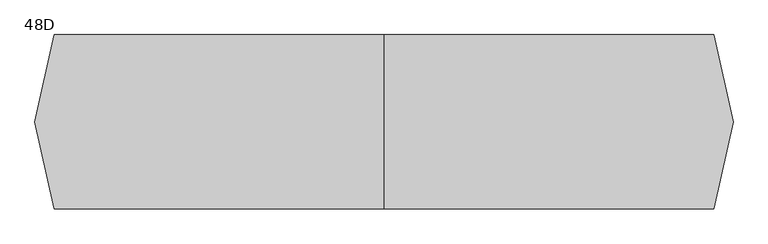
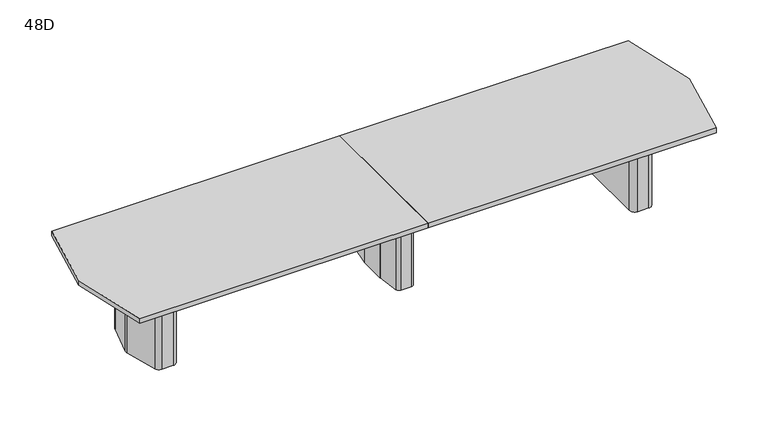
"""IFC4 building model written with IfcOpenShell, lengths in millimetres: furniture geometry, Coalesse_AM_Table_Conference_ETable2_Faceted_16ft_ThreeBase : 48D."""

from ifc_helpers import new_model, si_unit, frame, origin, place, context, project, spatial, polyline, circle_curve, outline, extrude, source, transform, mapped, element, save
from ifc_brep_helpers import plane_surface, cylinder_surface, revolved_surface, advanced_brep


def furniture_48d_52e363a8(model_context):
    return source(origin(), model_context, "Body", "SolidModel", [
        advanced_brep(
        [(35.71875, 206.375, 3.175), (10.31875, 231.775, 3.175), (-10.31875, 231.775, 3.175), (-35.71875, 206.375, 3.175), (-35.71875, -206.375, 3.175), (-10.31875, -231.775, 3.175), (10.31875, -231.775, 3.175), (35.71875, -206.375, 3.175), (-61.11875, 206.375, 0.0), (-10.31875, 257.175, 0.0), (10.31875, 257.175, 0.0), (61.11875, 206.375, 0.0), (61.11875, -206.375, 0.0), (10.31875, -257.175, 0.0), (-10.31875, -257.175, 0.0), (-61.11875, -206.375, 0.0), (-61.11875, -206.375, 3.175), (-61.11875, 206.375, 3.175), (-10.31875, -257.175, 3.175), (10.31875, -257.175, 3.175), (61.11875, -206.375, 3.175), (61.11875, 206.375, 3.175), (10.31875, 257.175, 3.175), (-10.31875, 257.175, 3.175), (-92.6215974, 106.2976848, 698.5), (-92.86875, 102.7629613, 698.5), (-92.86875, -102.7629613, 698.5), (-92.6215974, -106.2976848, 698.5), (-67.7988375, -282.9347235, 698.5), (-42.6459902, -304.8, 698.5), (42.6459902, -304.8, 698.5), (67.7988375, -282.9347235, 698.5), (92.6215974, -106.2976848, 698.5), (92.86875, -102.7629613, 698.5), (92.86875, 102.7629613, 698.5), (92.6215974, 106.2976848, 698.5), (67.7988375, 282.9347235, 698.5), (42.6459902, 304.8, 698.5), (-42.6459902, 304.8, 698.5), (-67.7988375, 282.9347235, 698.5), (10.31875, 231.775, 698.5), (35.71875, 206.375, 698.5), (35.71875, -206.375, 698.5), (10.31875, -231.775, 698.5), (-10.31875, -231.775, 698.5), (-35.71875, -206.375, 698.5), (-35.71875, 206.375, 698.5), (-10.31875, 231.775, 698.5), (-92.6215974, 106.2976848, 3.175), (-67.7988375, 282.9347235, 3.175), (-42.6459902, 304.8, 3.175), (42.6459902, 304.8, 3.175), (67.7988375, 282.9347235, 3.175), (92.6215974, 106.2976848, 3.175), (92.86875, 102.7629613, 3.175), (92.86875, -102.7629613, 3.175), (92.6215974, -106.2976848, 3.175), (67.7988375, -282.9347235, 3.175), (42.6459902, -304.8, 3.175), (-42.6459902, -304.8, 3.175), (-67.7988375, -282.9347235, 3.175), (-92.6215974, -106.2976848, 3.175), (-92.86875, -102.7629613, 3.175), (-92.86875, 102.7629613, 3.175)],
        [
            (0, 1, circle_curve(frame((10.31875, 206.375, 3.175), z_axis=(0.0, 0.0, 1.0), x_axis=(1.0, 0.0, 0.0)), 25.4)),
            (1, 2),
            (2, 3, circle_curve(frame((-10.31875, 206.375, 3.175), z_axis=(0.0, 0.0, 1.0), x_axis=(1.0, 0.0, 0.0)), 25.4)),
            (3, 4),
            (4, 5, circle_curve(frame((-10.31875, -206.375, 3.175), z_axis=(0.0, 0.0, 1.0), x_axis=(1.0, 0.0, 0.0)), 25.4)),
            (5, 6),
            (6, 7, circle_curve(frame((10.31875, -206.375, 3.175), z_axis=(0.0, 0.0, 1.0), x_axis=(1.0, 0.0, 0.0)), 25.4)),
            (7, 0),
            (8, 9, circle_curve(frame((-10.31875, 206.375, 0.0), z_axis=(0.0, 0.0, -1.0), x_axis=(1.0, 0.0, 0.0)), 50.8)),
            (9, 10),
            (10, 11, circle_curve(frame((10.31875, 206.375, 0.0), z_axis=(0.0, 0.0, -1.0), x_axis=(1.0, 0.0, 0.0)), 50.8)),
            (11, 12),
            (12, 13, circle_curve(frame((10.31875, -206.375, 0.0), z_axis=(0.0, 0.0, -1.0), x_axis=(1.0, 0.0, 0.0)), 50.8)),
            (13, 14),
            (14, 15, circle_curve(frame((-10.31875, -206.375, 0.0), z_axis=(0.0, 0.0, -1.0), x_axis=(1.0, 0.0, 0.0)), 50.8)),
            (15, 8),
            (15, 16),
            (16, 17),
            (17, 8),
            (14, 18),
            (18, 16, circle_curve(frame((-10.31875, -206.375, 3.175), z_axis=(0.0, 0.0, -1.0), x_axis=(1.0, 0.0, 0.0)), 50.8)),
            (13, 19),
            (19, 18),
            (12, 20),
            (20, 19, circle_curve(frame((10.31875, -206.375, 3.175), z_axis=(0.0, 0.0, -1.0), x_axis=(1.0, 0.0, 0.0)), 50.8)),
            (11, 21),
            (21, 20),
            (10, 22),
            (22, 21, circle_curve(frame((10.31875, 206.375, 3.175), z_axis=(0.0, 0.0, -1.0), x_axis=(1.0, 0.0, 0.0)), 50.8)),
            (9, 23),
            (23, 22),
            (17, 23, circle_curve(frame((-10.31875, 206.375, 3.175), z_axis=(0.0, 0.0, -1.0), x_axis=(1.0, 0.0, 0.0)), 50.8)),
            (24, 25, circle_curve(frame((-67.46875, 102.7629613, 698.5), z_axis=(0.0, 0.0, 1.0), x_axis=(1.0, 0.0, 0.0)), 25.4)),
            (25, 26),
            (26, 27, circle_curve(frame((-67.46875, -102.7629613, 698.5), z_axis=(0.0, 0.0, 1.0), x_axis=(1.0, 0.0, 0.0)), 25.4)),
            (27, 28),
            (28, 29, circle_curve(frame((-42.6459902, -279.4, 698.5), z_axis=(0.0, 0.0, 1.0), x_axis=(1.0, 0.0, 0.0)), 25.4)),
            (29, 30),
            (30, 31, circle_curve(frame((42.6459902, -279.4, 698.5), z_axis=(0.0, 0.0, 1.0), x_axis=(1.0, 0.0, 0.0)), 25.4)),
            (31, 32),
            (32, 33, circle_curve(frame((67.46875, -102.7629613, 698.5), z_axis=(0.0, 0.0, 1.0), x_axis=(1.0, 0.0, 0.0)), 25.4)),
            (33, 34),
            (34, 35, circle_curve(frame((67.46875, 102.7629613, 698.5), z_axis=(0.0, 0.0, 1.0), x_axis=(1.0, 0.0, 0.0)), 25.4)),
            (35, 36),
            (36, 37, circle_curve(frame((42.6459902, 279.4, 698.5), z_axis=(0.0, 0.0, 1.0), x_axis=(1.0, 0.0, 0.0)), 25.4)),
            (37, 38),
            (38, 39, circle_curve(frame((-42.6459902, 279.4, 698.5), z_axis=(0.0, 0.0, 1.0), x_axis=(1.0, 0.0, 0.0)), 25.4)),
            (39, 24),
            (40, 41, circle_curve(frame((10.31875, 206.375, 698.5), z_axis=(0.0, 0.0, -1.0), x_axis=(1.0, 0.0, 0.0)), 25.4)),
            (41, 42),
            (42, 43, circle_curve(frame((10.31875, -206.375, 698.5), z_axis=(0.0, 0.0, -1.0), x_axis=(1.0, 0.0, 0.0)), 25.4)),
            (43, 44),
            (44, 45, circle_curve(frame((-10.31875, -206.375, 698.5), z_axis=(0.0, 0.0, -1.0), x_axis=(1.0, 0.0, 0.0)), 25.4)),
            (45, 46),
            (46, 47, circle_curve(frame((-10.31875, 206.375, 698.5), z_axis=(0.0, 0.0, -1.0), x_axis=(1.0, 0.0, 0.0)), 25.4)),
            (47, 40),
            (48, 49),
            (49, 50, circle_curve(frame((-42.6459902, 279.4, 3.175), z_axis=(0.0, 0.0, -1.0), x_axis=(1.0, 0.0, 0.0)), 25.4)),
            (50, 51),
            (51, 52, circle_curve(frame((42.6459902, 279.4, 3.175), z_axis=(0.0, 0.0, -1.0), x_axis=(1.0, 0.0, 0.0)), 25.4)),
            (52, 53),
            (53, 54, circle_curve(frame((67.46875, 102.7629613, 3.175), z_axis=(0.0, 0.0, -1.0), x_axis=(1.0, 0.0, 0.0)), 25.4)),
            (54, 55),
            (55, 56, circle_curve(frame((67.46875, -102.7629613, 3.175), z_axis=(0.0, 0.0, -1.0), x_axis=(1.0, 0.0, 0.0)), 25.4)),
            (56, 57),
            (57, 58, circle_curve(frame((42.6459902, -279.4, 3.175), z_axis=(0.0, 0.0, -1.0), x_axis=(1.0, 0.0, 0.0)), 25.4)),
            (58, 59),
            (59, 60, circle_curve(frame((-42.6459902, -279.4, 3.175), z_axis=(0.0, 0.0, -1.0), x_axis=(1.0, 0.0, 0.0)), 25.4)),
            (60, 61),
            (61, 62, circle_curve(frame((-67.46875, -102.7629613, 3.175), z_axis=(0.0, 0.0, -1.0), x_axis=(1.0, 0.0, 0.0)), 25.4)),
            (62, 63),
            (63, 48, circle_curve(frame((-67.46875, 102.7629613, 3.175), z_axis=(0.0, 0.0, -1.0), x_axis=(1.0, 0.0, 0.0)), 25.4)),
            (24, 48),
            (63, 25),
            (62, 26),
            (61, 27),
            (60, 28),
            (59, 29),
            (58, 30),
            (57, 31),
            (56, 32),
            (55, 33),
            (54, 34),
            (53, 35),
            (52, 36),
            (51, 37),
            (50, 38),
            (49, 39),
            (40, 1),
            (0, 41),
            (7, 42),
            (6, 43),
            (5, 44),
            (4, 45),
            (3, 46),
            (2, 47),
        ],
        [
            plane_surface(frame((-61.11875, -206.375, 3.175), z_axis=(0.0, 0.0, 1.0), x_axis=(0.0, -1.0, 0.0))),
            plane_surface(frame((-61.11875, -206.375, 0.0), z_axis=(0.0, 0.0, -1.0), x_axis=(0.0, 1.0, 0.0))),
            plane_surface(frame((-61.11875, 206.375, 3.175), z_axis=(-1.0, 0.0, 0.0), x_axis=(0.0, 0.0, -1.0))),
            cylinder_surface(frame((-10.31875, -206.375, 0.0), z_axis=(0.0, 0.0, 1.0), x_axis=(1.0, 0.0, 0.0)), 50.8),
            plane_surface(frame((-10.31875, -257.175, 3.175), z_axis=(0.0, -1.0, 0.0), x_axis=(0.0, 0.0, -1.0))),
            cylinder_surface(frame((10.31875, -206.375, 0.0), z_axis=(0.0, 0.0, 1.0), x_axis=(1.0, 0.0, 0.0)), 50.8),
            plane_surface(frame((61.11875, -206.375, 3.175), z_axis=(1.0, 0.0, 0.0), x_axis=(0.0, 0.0, -1.0))),
            cylinder_surface(frame((10.31875, 206.375, 0.0), z_axis=(0.0, 0.0, 1.0), x_axis=(1.0, 0.0, 0.0)), 50.8),
            plane_surface(frame((10.31875, 257.175, 3.175), z_axis=(0.0, 1.0, 0.0), x_axis=(0.0, 0.0, -1.0))),
            cylinder_surface(frame((-10.31875, 206.375, 0.0), z_axis=(0.0, 0.0, 1.0), x_axis=(1.0, 0.0, 0.0)), 50.8),
            plane_surface(frame((-42.06875, 102.7629613, 698.5), z_axis=(0.0, 0.0, 1.0), x_axis=(0.0, 1.0, 0.0))),
            plane_surface(frame((-42.06875, 102.7629613, 3.175), z_axis=(0.0, 0.0, -1.0), x_axis=(0.0, -1.0, 0.0))),
            cylinder_surface(frame((-67.46875, 102.7629613, 3.175), z_axis=(0.0, 0.0, 1.0), x_axis=(1.0, 0.0, 0.0)), 25.4),
            plane_surface(frame((-92.86875, 102.7629613, 698.5), z_axis=(-1.0, 0.0, 0.0), x_axis=(0.0, 0.0, -1.0))),
            cylinder_surface(frame((-67.46875, -102.7629613, 3.175), z_axis=(0.0, 0.0, 1.0), x_axis=(1.0, 0.0, 0.0)), 25.4),
            plane_surface(frame((-92.6215974, -106.2976848, 698.5), z_axis=(-0.9902695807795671, -0.13916234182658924, 0.0), x_axis=(0.0, 0.0, -1.0))),
            cylinder_surface(frame((-42.6459902, -279.4, 3.175), z_axis=(0.0, 0.0, 1.0), x_axis=(1.0, 0.0, 0.0)), 25.4),
            plane_surface(frame((-42.6459902, -304.8, 698.5), z_axis=(0.0, -1.0, 0.0), x_axis=(0.0, 0.0, -1.0))),
            cylinder_surface(frame((42.6459902, -279.4, 3.175), z_axis=(0.0, 0.0, 1.0), x_axis=(1.0, 0.0, 0.0)), 25.4),
            plane_surface(frame((67.7988375, -282.9347235, 698.5), z_axis=(0.9902695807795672, -0.13916234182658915, 0.0), x_axis=(0.0, 0.0, -1.0))),
            cylinder_surface(frame((67.46875, -102.7629613, 3.175), z_axis=(0.0, 0.0, 1.0), x_axis=(1.0, 0.0, 0.0)), 25.4),
            plane_surface(frame((92.86875, -102.7629613, 698.5), z_axis=(1.0, 0.0, 0.0), x_axis=(0.0, 0.0, -1.0))),
            cylinder_surface(frame((67.46875, 102.7629613, 3.175), z_axis=(0.0, 0.0, 1.0), x_axis=(1.0, 0.0, 0.0)), 25.4),
            plane_surface(frame((92.6215974, 106.2976848, 698.5), z_axis=(0.9902695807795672, 0.1391623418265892, 0.0), x_axis=(0.0, 0.0, -1.0))),
            cylinder_surface(frame((42.6459902, 279.4, 3.175), z_axis=(0.0, 0.0, 1.0), x_axis=(1.0, 0.0, 0.0)), 25.4),
            plane_surface(frame((42.6459902, 304.8, 698.5), z_axis=(0.0, 1.0, 0.0), x_axis=(0.0, 0.0, -1.0))),
            cylinder_surface(frame((-42.6459902, 279.4, 3.175), z_axis=(0.0, 0.0, 1.0), x_axis=(1.0, 0.0, 0.0)), 25.4),
            plane_surface(frame((-67.7988375, 282.9347235, 698.5), z_axis=(-0.9902695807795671, 0.13916234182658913, 0.0), x_axis=(0.0, 0.0, -1.0))),
            revolved_surface(polyline([(35.71875, 206.375, 3.175), (35.71875, 206.375, 698.5)]), (10.31875, 206.375, 0.0), (0.0, 0.0, -1.0)),
            plane_surface(frame((35.71875, 206.375, 698.5), z_axis=(-1.0, 0.0, 0.0), x_axis=(0.0, 0.0, -1.0))),
            revolved_surface(polyline([(35.71875, -206.375, 3.175), (35.71875, -206.375, 698.5)]), (10.31875, -206.375, 0.0), (0.0, 0.0, -1.0)),
            plane_surface(frame((10.31875, -231.775, 698.5), z_axis=(0.0, 1.0, 0.0), x_axis=(0.0, 0.0, -1.0))),
            revolved_surface(polyline([(15.081249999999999, -206.375, 3.175), (15.081249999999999, -206.375, 698.5)]), (-10.31875, -206.375, 0.0), (0.0, 0.0, -1.0)),
            plane_surface(frame((-35.71875, -206.375, 698.5), z_axis=(1.0, 0.0, 0.0), x_axis=(0.0, 0.0, -1.0))),
            revolved_surface(polyline([(15.081249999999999, 206.375, 3.175), (15.081249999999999, 206.375, 698.5)]), (-10.31875, 206.375, 0.0), (0.0, 0.0, -1.0)),
            plane_surface(frame((-10.31875, 231.775, 698.5), z_axis=(0.0, -1.0, 0.0), x_axis=(0.0, 0.0, -1.0))),
        ],
        [
            (0, [[1, 2, 3, 4, 5, 6, 7, 8]]),
            (1, [[9, 10, 11, 12, 13, 14, 15, 16]]),
            (2, [[-16, 17, 18, 19]]),
            (3, [[-15, 20, 21, -17]]),
            (4, [[-14, 22, 23, -20]]),
            (5, [[-13, 24, 25, -22]]),
            (6, [[-12, 26, 27, -24]]),
            (7, [[-11, 28, 29, -26]]),
            (8, [[-10, 30, 31, -28]]),
            (9, [[-9, -19, 32, -30]]),
            (10, [[33, 34, 35, 36, 37, 38, 39, 40, 41, 42, 43, 44, 45, 46, 47, 48], [49, 50, 51, 52, 53, 54, 55, 56]]),
            (11, [[57, 58, 59, 60, 61, 62, 63, 64, 65, 66, 67, 68, 69, 70, 71, 72], [-18, -21, -23, -25, -27, -29, -31, -32]]),
            (12, [[-33, 73, -72, 74]]),
            (13, [[-34, -74, -71, 75]]),
            (14, [[-35, -75, -70, 76]]),
            (15, [[-36, -76, -69, 77]]),
            (16, [[-37, -77, -68, 78]]),
            (17, [[-38, -78, -67, 79]]),
            (18, [[-39, -79, -66, 80]]),
            (19, [[-40, -80, -65, 81]]),
            (20, [[-41, -81, -64, 82]]),
            (21, [[-42, -82, -63, 83]]),
            (22, [[-43, -83, -62, 84]]),
            (23, [[-44, -84, -61, 85]]),
            (24, [[-45, -85, -60, 86]]),
            (25, [[-46, -86, -59, 87]]),
            (26, [[-47, -87, -58, 88]]),
            (27, [[-48, -88, -57, -73]]),
            (28, [[-49, 89, -1, 90]]),
            (29, [[-50, -90, -8, 91]]),
            (30, [[-51, -91, -7, 92]]),
            (31, [[-52, -92, -6, 93]]),
            (32, [[-53, -93, -5, 94]]),
            (33, [[-54, -94, -4, 95]]),
            (34, [[-55, -95, -3, 96]]),
            (35, [[-56, -96, -2, -89]]),
        ],
    ),
        advanced_brep(
        [(1979.824548, 274.2093613, 698.5), (1939.9579246, 304.8, 698.5), (1851.025, 304.8, 698.5), (1809.75, 263.525, 698.5), (1809.75, -263.525, 698.5), (1851.025, -304.8, 698.5), (1939.9579246, -304.8, 698.5), (1979.824548, -274.2093613, 698.5), (2050.4503901, -10.6333708, 698.5), (2050.4503901, 10.6333708, 698.5), (1847.85, -206.375, 698.5), (1847.85, 206.375, 698.5), (1873.25, 231.775, 698.5), (1932.2608422, 231.775, 698.5), (1956.795338, 212.9490792, 698.5), (1995.4875, 68.54974, 698.5), (1995.4875, -68.54974, 698.5), (1956.795338, -212.9490792, 698.5), (1932.2608422, -231.775, 698.5), (1873.25, -231.775, 698.5), (1979.824548, 274.2093613, 3.175), (2050.4503901, 10.6333708, 3.175), (2050.4503901, -10.6333708, 3.175), (1979.824548, -274.2093613, 3.175), (1939.9579246, -304.8, 3.175), (1851.025, -304.8, 3.175), (1809.75, -263.525, 3.175), (1809.75, 263.525, 3.175), (1851.025, 304.8, 3.175), (1939.9579246, 304.8, 3.175), (1969.0625859, 216.2361187, 3.175), (1932.2608422, 244.475, 3.175), (1873.25, 244.475, 3.175), (1835.15, 206.375, 3.175), (1835.15, -206.375, 3.175), (1873.25, -244.475, 3.175), (1932.2608422, -244.475, 3.175), (1969.0625859, -216.2361187, 3.175), (2008.1875, -70.2217466, 3.175), (2008.1875, 70.2217466, 3.175), (1873.25, -231.775, 3.175), (1847.85, -206.375, 3.175), (1932.2608422, -231.775, 3.175), (1956.795338, -212.9490792, 3.175), (1995.4875, -68.54974, 3.175), (1995.4875, 68.54974, 3.175), (1956.795338, 212.9490792, 3.175), (1932.2608422, 231.775, 3.175), (1873.25, 231.775, 3.175), (1847.85, 206.375, 3.175), (1969.0625859, 216.2361187, 0.0), (2008.1875, 70.2217466, 0.0), (2008.1875, -70.2217466, 0.0), (1969.0625859, -216.2361187, 0.0), (1932.2608422, -244.475, 0.0), (1873.25, -244.475, 0.0), (1835.15, -206.375, 0.0), (1835.15, 206.375, 0.0), (1873.25, 244.475, 0.0), (1932.2608422, 244.475, 0.0)],
        [
            (0, 1, circle_curve(frame((1939.9579246, 263.5270004, 698.5), z_axis=(0.0, 0.0, 1.0), x_axis=(-1.0, 0.0, 0.0)), 41.2729996)),
            (1, 2),
            (2, 3, circle_curve(frame((1851.025, 263.525, 698.5), z_axis=(0.0, 0.0, 1.0), x_axis=(-1.0, 0.0, 0.0)), 41.275)),
            (3, 4),
            (4, 5, circle_curve(frame((1851.025, -263.525, 698.5), z_axis=(0.0, 0.0, 1.0), x_axis=(-1.0, 0.0, 0.0)), 41.275)),
            (5, 6),
            (6, 7, circle_curve(frame((1939.9579246, -263.5270004, 698.5), z_axis=(0.0, 0.0, 1.0), x_axis=(-1.0, 0.0, 0.0)), 41.2729996)),
            (7, 8),
            (8, 9, circle_curve(frame((2010.7665979, 0.0, 698.5), z_axis=(0.0, 0.0, 1.0), x_axis=(-1.0, 0.0, 0.0)), 41.0837187)),
            (9, 0),
            (10, 11),
            (11, 12, circle_curve(frame((1873.25, 206.375, 698.5), z_axis=(0.0, 0.0, -1.0), x_axis=(-1.0, 0.0, 0.0)), 25.4)),
            (12, 13),
            (13, 14, circle_curve(frame((1932.2608422, 206.375, 698.5), z_axis=(0.0, 0.0, -1.0), x_axis=(-1.0, 0.0, 0.0)), 25.4)),
            (14, 15),
            (15, 16),
            (16, 17),
            (17, 18, circle_curve(frame((1932.2608422, -206.375, 698.5), z_axis=(0.0, 0.0, -1.0), x_axis=(-1.0, 0.0, 0.0)), 25.4)),
            (18, 19),
            (19, 10, circle_curve(frame((1873.25, -206.375, 698.5), z_axis=(0.0, 0.0, -1.0), x_axis=(-1.0, 0.0, 0.0)), 25.4)),
            (20, 21),
            (21, 22, circle_curve(frame((2010.7665979, 0.0, 3.175), z_axis=(0.0, 0.0, -1.0), x_axis=(-1.0, 0.0, 0.0)), 41.0837187)),
            (22, 23),
            (23, 24, circle_curve(frame((1939.9579246, -263.5270004, 3.175), z_axis=(0.0, 0.0, -1.0), x_axis=(-1.0, 0.0, 0.0)), 41.2729996)),
            (24, 25),
            (25, 26, circle_curve(frame((1851.025, -263.525, 3.175), z_axis=(0.0, 0.0, -1.0), x_axis=(-1.0, 0.0, 0.0)), 41.275)),
            (26, 27),
            (27, 28, circle_curve(frame((1851.025, 263.525, 3.175), z_axis=(0.0, 0.0, -1.0), x_axis=(-1.0, 0.0, 0.0)), 41.275)),
            (28, 29),
            (29, 20, circle_curve(frame((1939.9579246, 263.5270004, 3.175), z_axis=(0.0, 0.0, -1.0), x_axis=(-1.0, 0.0, 0.0)), 41.2729996)),
            (30, 31, circle_curve(frame((1932.2608422, 206.375, 3.175), z_axis=(0.0, 0.0, 1.0), x_axis=(-1.0, 0.0, 0.0)), 38.1)),
            (31, 32),
            (32, 33, circle_curve(frame((1873.25, 206.375, 3.175), z_axis=(0.0, 0.0, 1.0), x_axis=(-1.0, 0.0, 0.0)), 38.1)),
            (33, 34),
            (34, 35, circle_curve(frame((1873.25, -206.375, 3.175), z_axis=(0.0, 0.0, 1.0), x_axis=(-1.0, 0.0, 0.0)), 38.1)),
            (35, 36),
            (36, 37, circle_curve(frame((1932.2608422, -206.375, 3.175), z_axis=(0.0, 0.0, 1.0), x_axis=(-1.0, 0.0, 0.0)), 38.1)),
            (37, 38),
            (38, 39),
            (39, 30),
            (9, 21),
            (20, 0),
            (8, 22),
            (7, 23),
            (6, 24),
            (5, 25),
            (4, 26),
            (3, 27),
            (2, 28),
            (1, 29),
            (19, 40),
            (40, 41, circle_curve(frame((1873.25, -206.375, 3.175), z_axis=(0.0, 0.0, -1.0), x_axis=(-1.0, 0.0, 0.0)), 25.4)),
            (41, 10),
            (18, 42),
            (42, 40),
            (17, 43),
            (43, 42, circle_curve(frame((1932.2608422, -206.375, 3.175), z_axis=(0.0, 0.0, -1.0), x_axis=(-1.0, 0.0, 0.0)), 25.4)),
            (16, 44),
            (44, 43),
            (15, 45),
            (45, 44),
            (14, 46),
            (46, 45),
            (13, 47),
            (47, 46, circle_curve(frame((1932.2608422, 206.375, 3.175), z_axis=(0.0, 0.0, -1.0), x_axis=(-1.0, 0.0, 0.0)), 25.4)),
            (12, 48),
            (48, 47),
            (11, 49),
            (49, 48, circle_curve(frame((1873.25, 206.375, 3.175), z_axis=(0.0, 0.0, -1.0), x_axis=(-1.0, 0.0, 0.0)), 25.4)),
            (41, 49),
            (50, 51),
            (51, 52),
            (52, 53),
            (53, 54, circle_curve(frame((1932.2608422, -206.375, 0.0), z_axis=(0.0, 0.0, -1.0), x_axis=(-1.0, 0.0, 0.0)), 38.1)),
            (54, 55),
            (55, 56, circle_curve(frame((1873.25, -206.375, 0.0), z_axis=(0.0, 0.0, -1.0), x_axis=(-1.0, 0.0, 0.0)), 38.1)),
            (56, 57),
            (57, 58, circle_curve(frame((1873.25, 206.375, 0.0), z_axis=(0.0, 0.0, -1.0), x_axis=(-1.0, 0.0, 0.0)), 38.1)),
            (58, 59),
            (59, 50, circle_curve(frame((1932.2608422, 206.375, 0.0), z_axis=(0.0, 0.0, -1.0), x_axis=(-1.0, 0.0, 0.0)), 38.1)),
            (50, 30),
            (39, 51),
            (38, 52),
            (37, 53),
            (36, 54),
            (35, 55),
            (34, 56),
            (33, 57),
            (32, 58),
            (31, 59),
        ],
        [
            plane_surface(frame((2050.4374275, 10.6817473, 698.5), z_axis=(0.0, 0.0, 1.0000000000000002), x_axis=(0.25882201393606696, -0.9659250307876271, 0.0))),
            plane_surface(frame((2050.4374275, 10.6817473, 3.175), z_axis=(0.0, 0.0, -1.0000000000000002), x_axis=(-0.25882201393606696, 0.9659250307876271, 0.0))),
            plane_surface(frame((1979.824548, 274.2093613, 698.5), z_axis=(0.9659250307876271, 0.25882201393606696, 0.0), x_axis=(0.0, 0.0, -1.0))),
            cylinder_surface(frame((2010.7665979, 0.0, 3.175), z_axis=(0.0, 0.0, 1.0), x_axis=(-1.0, 0.0, 0.0)), 41.0837187),
            plane_surface(frame((2050.4503901, -10.6333708, 698.5), z_axis=(0.9659250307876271, -0.2588220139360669, 0.0), x_axis=(0.0, 0.0, -1.0))),
            cylinder_surface(frame((1939.9579246, -263.5270004, 3.175), z_axis=(0.0, 0.0, 1.0), x_axis=(-1.0, 0.0, 0.0)), 41.2729996),
            plane_surface(frame((1939.9579246, -304.8, 698.5), z_axis=(0.0, -1.0, 0.0), x_axis=(0.0, 0.0, -1.0))),
            cylinder_surface(frame((1851.025, -263.525, 3.175), z_axis=(0.0, 0.0, 1.0), x_axis=(-1.0, 0.0, 0.0)), 41.275),
            plane_surface(frame((1809.75, -263.525, 698.5), z_axis=(-1.0, 0.0, 0.0), x_axis=(0.0, 0.0, -1.0))),
            cylinder_surface(frame((1851.025, 263.525, 3.175), z_axis=(0.0, 0.0, 1.0), x_axis=(-1.0, 0.0, 0.0)), 41.275),
            plane_surface(frame((1851.025, 304.8, 698.5), z_axis=(0.0, 1.0, 0.0), x_axis=(0.0, 0.0, -1.0))),
            cylinder_surface(frame((1939.9579246, 263.5270004, 3.175), z_axis=(0.0, 0.0, 1.0), x_axis=(-1.0, 0.0, 0.0)), 41.2729996),
            revolved_surface(polyline([(1847.85, -206.375, 3.175), (1847.85, -206.375, 698.5)]), (1873.25, -206.375, 0.0), (0.0, 0.0, -1.0)),
            plane_surface(frame((1873.25, -231.775, 698.5), z_axis=(0.0, 1.0, 0.0), x_axis=(0.0, 0.0, -1.0))),
            revolved_surface(polyline([(1906.8608422, -206.375, 3.175), (1906.8608422, -206.375, 698.5)]), (1932.2608422, -206.375, 0.0), (0.0, 0.0, -1.0)),
            plane_surface(frame((1956.795338, -212.9490792, 698.5), z_axis=(-0.9659250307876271, 0.2588220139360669, 0.0), x_axis=(0.0, 0.0, -1.0))),
            plane_surface(frame((1995.4875, -68.54974, 698.5), z_axis=(-1.0, 0.0, 0.0), x_axis=(0.0, 0.0, -1.0))),
            plane_surface(frame((1995.4875, 68.54974, 698.5), z_axis=(-0.9659250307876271, -0.25882201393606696, 0.0), x_axis=(0.0, 0.0, -1.0))),
            revolved_surface(polyline([(1906.8608422, 206.375, 3.175), (1906.8608422, 206.375, 698.5)]), (1932.2608422, 206.375, 0.0), (0.0, 0.0, -1.0)),
            plane_surface(frame((1932.2608422, 231.775, 698.5), z_axis=(0.0, -1.0, 0.0), x_axis=(0.0, 0.0, -1.0))),
            revolved_surface(polyline([(1847.85, 206.375, 3.175), (1847.85, 206.375, 698.5)]), (1873.25, 206.375, 0.0), (0.0, 0.0, -1.0)),
            plane_surface(frame((1847.85, 206.375, 698.5), z_axis=(1.0, 0.0, 0.0), x_axis=(0.0, 0.0, -1.0))),
            plane_surface(frame((2007.7547479, 71.8367796, 3.175), z_axis=(0.0, 0.0, 1.0), x_axis=(0.25882201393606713, -0.965925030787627, 0.0))),
            plane_surface(frame((2007.7547479, 71.8367796, 0.0), z_axis=(0.0, 0.0, -1.0), x_axis=(-0.25882201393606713, 0.965925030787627, 0.0))),
            plane_surface(frame((1969.0625859, 216.2361187, 3.175), z_axis=(0.965925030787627, 0.25882201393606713, 0.0), x_axis=(0.0, 0.0, -1.0))),
            plane_surface(frame((2008.1875, 70.2217466, 3.175), z_axis=(1.0, 0.0, 0.0), x_axis=(0.0, 0.0, -1.0))),
            plane_surface(frame((2008.1875, -70.2217466, 3.175), z_axis=(0.9659250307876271, -0.2588220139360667, 0.0), x_axis=(0.0, 0.0, -1.0))),
            cylinder_surface(frame((1932.2608422, -206.375, 0.0), z_axis=(0.0, 0.0, 1.0), x_axis=(-1.0, 0.0, 0.0)), 38.1),
            plane_surface(frame((1932.2608422, -244.475, 3.175), z_axis=(0.0, -1.0, 0.0), x_axis=(0.0, 0.0, -1.0))),
            cylinder_surface(frame((1873.25, -206.375, 0.0), z_axis=(0.0, 0.0, 1.0), x_axis=(-1.0, 0.0, 0.0)), 38.1),
            plane_surface(frame((1835.15, -206.375, 3.175), z_axis=(-1.0, 0.0, 0.0), x_axis=(0.0, 0.0, -1.0))),
            cylinder_surface(frame((1873.25, 206.375, 0.0), z_axis=(0.0, 0.0, 1.0), x_axis=(-1.0, 0.0, 0.0)), 38.1),
            plane_surface(frame((1873.25, 244.475, 3.175), z_axis=(0.0, 1.0, 0.0), x_axis=(0.0, 0.0, -1.0))),
            cylinder_surface(frame((1932.2608422, 206.375, 0.0), z_axis=(0.0, 0.0, 1.0), x_axis=(-1.0, 0.0, 0.0)), 38.1),
        ],
        [
            (0, [[1, 2, 3, 4, 5, 6, 7, 8, 9, 10], [11, 12, 13, 14, 15, 16, 17, 18, 19, 20]]),
            (1, [[21, 22, 23, 24, 25, 26, 27, 28, 29, 30], [31, 32, 33, 34, 35, 36, 37, 38, 39, 40]]),
            (2, [[41, -21, 42, -10]]),
            (3, [[43, -22, -41, -9]]),
            (4, [[44, -23, -43, -8]]),
            (5, [[45, -24, -44, -7]]),
            (6, [[46, -25, -45, -6]]),
            (7, [[47, -26, -46, -5]]),
            (8, [[48, -27, -47, -4]]),
            (9, [[49, -28, -48, -3]]),
            (10, [[50, -29, -49, -2]]),
            (11, [[-42, -30, -50, -1]]),
            (12, [[51, 52, 53, -20]]),
            (13, [[54, 55, -51, -19]]),
            (14, [[56, 57, -54, -18]]),
            (15, [[58, 59, -56, -17]]),
            (16, [[60, 61, -58, -16]]),
            (17, [[62, 63, -60, -15]]),
            (18, [[64, 65, -62, -14]]),
            (19, [[66, 67, -64, -13]]),
            (20, [[68, 69, -66, -12]]),
            (21, [[-53, 70, -68, -11]]),
            (22, [[-55, -57, -59, -61, -63, -65, -67, -69, -70, -52]]),
            (23, [[71, 72, 73, 74, 75, 76, 77, 78, 79, 80]]),
            (24, [[81, -40, 82, -71]]),
            (25, [[-82, -39, 83, -72]]),
            (26, [[-83, -38, 84, -73]]),
            (27, [[-84, -37, 85, -74]]),
            (28, [[-85, -36, 86, -75]]),
            (29, [[-86, -35, 87, -76]]),
            (30, [[-87, -34, 88, -77]]),
            (31, [[-88, -33, 89, -78]]),
            (32, [[-89, -32, 90, -79]]),
            (33, [[-90, -31, -81, -80]]),
        ],
    ),
        advanced_brep(
        [(-1990.937048, 274.2093613, 698.5), (-2061.5628901, 10.6333708, 698.5), (-2061.5628901, -10.6333708, 698.5), (-1990.937048, -274.2093613, 698.5), (-1951.0704246, -304.8, 698.5), (-1862.1375, -304.8, 698.5), (-1820.8625, -263.525, 698.5), (-1820.8625, 263.525, 698.5), (-1862.1375, 304.8, 698.5), (-1951.0704246, 304.8, 698.5), (-1858.9625, -206.375, 698.5), (-1884.3625, -231.775, 698.5), (-1943.3733422, -231.775, 698.5), (-1967.907838, -212.9490792, 698.5), (-2006.6, -68.54974, 698.5), (-2006.6, 68.54974, 698.5), (-1967.907838, 212.9490792, 698.5), (-1943.3733422, 231.775, 698.5), (-1884.3625, 231.775, 698.5), (-1858.9625, 206.375, 698.5), (-1990.937048, 274.2093613, 3.175), (-1951.0704246, 304.8, 3.175), (-1862.1375, 304.8, 3.175), (-1820.8625, 263.525, 3.175), (-1820.8625, -263.525, 3.175), (-1862.1375, -304.8, 3.175), (-1951.0704246, -304.8, 3.175), (-1990.937048, -274.2093613, 3.175), (-2061.5628901, -10.6333708, 3.175), (-2061.5628901, 10.6333708, 3.175), (-1980.1750859, 216.2361187, 3.175), (-2019.3, 70.2217466, 3.175), (-2019.3, -70.2217466, 3.175), (-1980.1750859, -216.2361187, 3.175), (-1943.3733422, -244.475, 3.175), (-1884.3625, -244.475, 3.175), (-1846.2625, -206.375, 3.175), (-1846.2625, 206.375, 3.175), (-1884.3625, 244.475, 3.175), (-1943.3733422, 244.475, 3.175), (-1858.9625, -206.375, 3.175), (-1884.3625, -231.775, 3.175), (-1943.3733422, -231.775, 3.175), (-1967.907838, -212.9490792, 3.175), (-2006.6, -68.54974, 3.175), (-2006.6, 68.54974, 3.175), (-1967.907838, 212.9490792, 3.175), (-1943.3733422, 231.775, 3.175), (-1884.3625, 231.775, 3.175), (-1858.9625, 206.375, 3.175), (-1980.1750859, 216.2361187, 0.0), (-1943.3733422, 244.475, 0.0), (-1884.3625, 244.475, 0.0), (-1846.2625, 206.375, 0.0), (-1846.2625, -206.375, 0.0), (-1884.3625, -244.475, 0.0), (-1943.3733422, -244.475, 0.0), (-1980.1750859, -216.2361187, 0.0), (-2019.3, -70.2217466, 0.0), (-2019.3, 70.2217466, 0.0)],
        [
            (0, 1),
            (1, 2, circle_curve(frame((-2021.8790979, 0.0, 698.5), z_axis=(0.0, 0.0, 1.0), x_axis=(1.0, 0.0, 0.0)), 41.0837187)),
            (2, 3),
            (3, 4, circle_curve(frame((-1951.0704246, -263.5270004, 698.5), z_axis=(0.0, 0.0, 1.0), x_axis=(1.0, 0.0, 0.0)), 41.2729996)),
            (4, 5),
            (5, 6, circle_curve(frame((-1862.1375, -263.525, 698.5), z_axis=(0.0, 0.0, 1.0), x_axis=(1.0, 0.0, 0.0)), 41.275)),
            (6, 7),
            (7, 8, circle_curve(frame((-1862.1375, 263.525, 698.5), z_axis=(0.0, 0.0, 1.0), x_axis=(1.0, 0.0, 0.0)), 41.275)),
            (8, 9),
            (9, 0, circle_curve(frame((-1951.0704246, 263.5270004, 698.5), z_axis=(0.0, 0.0, 1.0), x_axis=(1.0, 0.0, 0.0)), 41.2729996)),
            (10, 11, circle_curve(frame((-1884.3625, -206.375, 698.5), z_axis=(0.0, 0.0, -1.0), x_axis=(1.0, 0.0, 0.0)), 25.4)),
            (11, 12),
            (12, 13, circle_curve(frame((-1943.3733422, -206.375, 698.5), z_axis=(0.0, 0.0, -1.0), x_axis=(1.0, 0.0, 0.0)), 25.4)),
            (13, 14),
            (14, 15),
            (15, 16),
            (16, 17, circle_curve(frame((-1943.3733422, 206.375, 698.5), z_axis=(0.0, 0.0, -1.0), x_axis=(1.0, 0.0, 0.0)), 25.4)),
            (17, 18),
            (18, 19, circle_curve(frame((-1884.3625, 206.375, 698.5), z_axis=(0.0, 0.0, -1.0), x_axis=(1.0, 0.0, 0.0)), 25.4)),
            (19, 10),
            (20, 21, circle_curve(frame((-1951.0704246, 263.5270004, 3.175), z_axis=(0.0, 0.0, -1.0), x_axis=(1.0, 0.0, 0.0)), 41.2729996)),
            (21, 22),
            (22, 23, circle_curve(frame((-1862.1375, 263.525, 3.175), z_axis=(0.0, 0.0, -1.0), x_axis=(1.0, 0.0, 0.0)), 41.275)),
            (23, 24),
            (24, 25, circle_curve(frame((-1862.1375, -263.525, 3.175), z_axis=(0.0, 0.0, -1.0), x_axis=(1.0, 0.0, 0.0)), 41.275)),
            (25, 26),
            (26, 27, circle_curve(frame((-1951.0704246, -263.5270004, 3.175), z_axis=(0.0, 0.0, -1.0), x_axis=(1.0, 0.0, 0.0)), 41.2729996)),
            (27, 28),
            (28, 29, circle_curve(frame((-2021.8790979, 0.0, 3.175), z_axis=(0.0, 0.0, -1.0), x_axis=(1.0, 0.0, 0.0)), 41.0837187)),
            (29, 20),
            (30, 31),
            (31, 32),
            (32, 33),
            (33, 34, circle_curve(frame((-1943.3733422, -206.375, 3.175), z_axis=(0.0, 0.0, 1.0), x_axis=(1.0, 0.0, 0.0)), 38.1)),
            (34, 35),
            (35, 36, circle_curve(frame((-1884.3625, -206.375, 3.175), z_axis=(0.0, 0.0, 1.0), x_axis=(1.0, 0.0, 0.0)), 38.1)),
            (36, 37),
            (37, 38, circle_curve(frame((-1884.3625, 206.375, 3.175), z_axis=(0.0, 0.0, 1.0), x_axis=(1.0, 0.0, 0.0)), 38.1)),
            (38, 39),
            (39, 30, circle_curve(frame((-1943.3733422, 206.375, 3.175), z_axis=(0.0, 0.0, 1.0), x_axis=(1.0, 0.0, 0.0)), 38.1)),
            (0, 20),
            (29, 1),
            (28, 2),
            (27, 3),
            (26, 4),
            (25, 5),
            (24, 6),
            (23, 7),
            (22, 8),
            (21, 9),
            (10, 40),
            (40, 41, circle_curve(frame((-1884.3625, -206.375, 3.175), z_axis=(0.0, 0.0, -1.0), x_axis=(1.0, 0.0, 0.0)), 25.4)),
            (41, 11),
            (41, 42),
            (42, 12),
            (42, 43, circle_curve(frame((-1943.3733422, -206.375, 3.175), z_axis=(0.0, 0.0, -1.0), x_axis=(1.0, 0.0, 0.0)), 25.4)),
            (43, 13),
            (43, 44),
            (44, 14),
            (44, 45),
            (45, 15),
            (45, 46),
            (46, 16),
            (46, 47, circle_curve(frame((-1943.3733422, 206.375, 3.175), z_axis=(0.0, 0.0, -1.0), x_axis=(1.0, 0.0, 0.0)), 25.4)),
            (47, 17),
            (47, 48),
            (48, 18),
            (48, 49, circle_curve(frame((-1884.3625, 206.375, 3.175), z_axis=(0.0, 0.0, -1.0), x_axis=(1.0, 0.0, 0.0)), 25.4)),
            (49, 19),
            (49, 40),
            (50, 51, circle_curve(frame((-1943.3733422, 206.375, 0.0), z_axis=(0.0, 0.0, -1.0), x_axis=(1.0, 0.0, 0.0)), 38.1)),
            (51, 52),
            (52, 53, circle_curve(frame((-1884.3625, 206.375, 0.0), z_axis=(0.0, 0.0, -1.0), x_axis=(1.0, 0.0, 0.0)), 38.1)),
            (53, 54),
            (54, 55, circle_curve(frame((-1884.3625, -206.375, 0.0), z_axis=(0.0, 0.0, -1.0), x_axis=(1.0, 0.0, 0.0)), 38.1)),
            (55, 56),
            (56, 57, circle_curve(frame((-1943.3733422, -206.375, 0.0), z_axis=(0.0, 0.0, -1.0), x_axis=(1.0, 0.0, 0.0)), 38.1)),
            (57, 58),
            (58, 59),
            (59, 50),
            (59, 31),
            (30, 50),
            (58, 32),
            (57, 33),
            (56, 34),
            (55, 35),
            (54, 36),
            (53, 37),
            (52, 38),
            (51, 39),
        ],
        [
            plane_surface(frame((-2061.5499275, 10.6817473, 698.5), z_axis=(0.0, 0.0, 1.0000000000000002), x_axis=(-0.25882201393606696, -0.9659250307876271, 0.0))),
            plane_surface(frame((-2061.5499275, 10.6817473, 3.175), z_axis=(0.0, 0.0, -1.0000000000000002), x_axis=(0.25882201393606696, 0.9659250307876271, 0.0))),
            plane_surface(frame((-1990.937048, 274.2093613, 698.5), z_axis=(-0.9659250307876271, 0.25882201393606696, 0.0), x_axis=(0.0, 0.0, -1.0))),
            cylinder_surface(frame((-2021.8790979, 0.0, 3.175), z_axis=(0.0, 0.0, 1.0), x_axis=(1.0, 0.0, 0.0)), 41.0837187),
            plane_surface(frame((-2061.5628901, -10.6333708, 698.5), z_axis=(-0.9659250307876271, -0.2588220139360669, 0.0), x_axis=(0.0, 0.0, -1.0))),
            cylinder_surface(frame((-1951.0704246, -263.5270004, 3.175), z_axis=(0.0, 0.0, 1.0), x_axis=(1.0, 0.0, 0.0)), 41.2729996),
            plane_surface(frame((-1951.0704246, -304.8, 698.5), z_axis=(0.0, -1.0, 0.0), x_axis=(0.0, 0.0, -1.0))),
            cylinder_surface(frame((-1862.1375, -263.525, 3.175), z_axis=(0.0, 0.0, 1.0), x_axis=(1.0, 0.0, 0.0)), 41.275),
            plane_surface(frame((-1820.8625, -263.525, 698.5), z_axis=(1.0, 0.0, 0.0), x_axis=(0.0, 0.0, -1.0))),
            cylinder_surface(frame((-1862.1375, 263.525, 3.175), z_axis=(0.0, 0.0, 1.0), x_axis=(1.0, 0.0, 0.0)), 41.275),
            plane_surface(frame((-1862.1375, 304.8, 698.5), z_axis=(0.0, 1.0, 0.0), x_axis=(0.0, 0.0, -1.0))),
            cylinder_surface(frame((-1951.0704246, 263.5270004, 3.175), z_axis=(0.0, 0.0, 1.0), x_axis=(1.0, 0.0, 0.0)), 41.2729996),
            revolved_surface(polyline([(-1858.9624999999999, -206.375, 3.175), (-1858.9624999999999, -206.375, 698.5)]), (-1884.3625, -206.375, 0.0), (0.0, 0.0, -1.0)),
            plane_surface(frame((-1884.3625, -231.775, 698.5), z_axis=(0.0, 1.0, 0.0), x_axis=(0.0, 0.0, -1.0))),
            revolved_surface(polyline([(-1917.9733422, -206.375, 3.175), (-1917.9733422, -206.375, 698.5)]), (-1943.3733422, -206.375, 0.0), (0.0, 0.0, -1.0)),
            plane_surface(frame((-1967.907838, -212.9490792, 698.5), z_axis=(0.9659250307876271, 0.2588220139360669, 0.0), x_axis=(0.0, 0.0, -1.0))),
            plane_surface(frame((-2006.6, -68.54974, 698.5), z_axis=(1.0, 0.0, 0.0), x_axis=(0.0, 0.0, -1.0))),
            plane_surface(frame((-2006.6, 68.54974, 698.5), z_axis=(0.9659250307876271, -0.25882201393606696, 0.0), x_axis=(0.0, 0.0, -1.0))),
            revolved_surface(polyline([(-1917.9733422, 206.375, 3.175), (-1917.9733422, 206.375, 698.5)]), (-1943.3733422, 206.375, 0.0), (0.0, 0.0, -1.0)),
            plane_surface(frame((-1943.3733422, 231.775, 698.5), z_axis=(0.0, -1.0, 0.0), x_axis=(0.0, 0.0, -1.0))),
            revolved_surface(polyline([(-1858.9624999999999, 206.375, 3.175), (-1858.9624999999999, 206.375, 698.5)]), (-1884.3625, 206.375, 0.0), (0.0, 0.0, -1.0)),
            plane_surface(frame((-1858.9625, 206.375, 698.5), z_axis=(-1.0, 0.0, 0.0), x_axis=(0.0, 0.0, -1.0))),
            plane_surface(frame((-2018.8672479, 71.8367796, 3.175), z_axis=(0.0, 0.0, 1.0), x_axis=(-0.25882201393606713, -0.965925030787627, 0.0))),
            plane_surface(frame((-2018.8672479, 71.8367796, 0.0), z_axis=(0.0, 0.0, -1.0), x_axis=(0.25882201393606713, 0.965925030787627, 0.0))),
            plane_surface(frame((-1980.1750859, 216.2361187, 3.175), z_axis=(-0.965925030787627, 0.25882201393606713, 0.0), x_axis=(0.0, 0.0, -1.0))),
            plane_surface(frame((-2019.3, 70.2217466, 3.175), z_axis=(-1.0, 0.0, 0.0), x_axis=(0.0, 0.0, -1.0))),
            plane_surface(frame((-2019.3, -70.2217466, 3.175), z_axis=(-0.9659250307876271, -0.2588220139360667, 0.0), x_axis=(0.0, 0.0, -1.0))),
            cylinder_surface(frame((-1943.3733422, -206.375, 0.0), z_axis=(0.0, 0.0, 1.0), x_axis=(1.0, 0.0, 0.0)), 38.1),
            plane_surface(frame((-1943.3733422, -244.475, 3.175), z_axis=(0.0, -1.0, 0.0), x_axis=(0.0, 0.0, -1.0))),
            cylinder_surface(frame((-1884.3625, -206.375, 0.0), z_axis=(0.0, 0.0, 1.0), x_axis=(1.0, 0.0, 0.0)), 38.1),
            plane_surface(frame((-1846.2625, -206.375, 3.175), z_axis=(1.0, 0.0, 0.0), x_axis=(0.0, 0.0, -1.0))),
            cylinder_surface(frame((-1884.3625, 206.375, 0.0), z_axis=(0.0, 0.0, 1.0), x_axis=(1.0, 0.0, 0.0)), 38.1),
            plane_surface(frame((-1884.3625, 244.475, 3.175), z_axis=(0.0, 1.0, 0.0), x_axis=(0.0, 0.0, -1.0))),
            cylinder_surface(frame((-1943.3733422, 206.375, 0.0), z_axis=(0.0, 0.0, 1.0), x_axis=(1.0, 0.0, 0.0)), 38.1),
        ],
        [
            (0, [[1, 2, 3, 4, 5, 6, 7, 8, 9, 10], [11, 12, 13, 14, 15, 16, 17, 18, 19, 20]]),
            (1, [[21, 22, 23, 24, 25, 26, 27, 28, 29, 30], [31, 32, 33, 34, 35, 36, 37, 38, 39, 40]]),
            (2, [[-1, 41, -30, 42]]),
            (3, [[-2, -42, -29, 43]]),
            (4, [[-3, -43, -28, 44]]),
            (5, [[-4, -44, -27, 45]]),
            (6, [[-5, -45, -26, 46]]),
            (7, [[-6, -46, -25, 47]]),
            (8, [[-7, -47, -24, 48]]),
            (9, [[-8, -48, -23, 49]]),
            (10, [[-9, -49, -22, 50]]),
            (11, [[-10, -50, -21, -41]]),
            (12, [[-11, 51, 52, 53]]),
            (13, [[-12, -53, 54, 55]]),
            (14, [[-13, -55, 56, 57]]),
            (15, [[-14, -57, 58, 59]]),
            (16, [[-15, -59, 60, 61]]),
            (17, [[-16, -61, 62, 63]]),
            (18, [[-17, -63, 64, 65]]),
            (19, [[-18, -65, 66, 67]]),
            (20, [[-19, -67, 68, 69]]),
            (21, [[-20, -69, 70, -51]]),
            (22, [[-52, -70, -68, -66, -64, -62, -60, -58, -56, -54]]),
            (23, [[71, 72, 73, 74, 75, 76, 77, 78, 79, 80]]),
            (24, [[-80, 81, -31, 82]]),
            (25, [[-79, 83, -32, -81]]),
            (26, [[-78, 84, -33, -83]]),
            (27, [[-77, 85, -34, -84]]),
            (28, [[-76, 86, -35, -85]]),
            (29, [[-75, 87, -36, -86]]),
            (30, [[-74, 88, -37, -87]]),
            (31, [[-73, 89, -38, -88]]),
            (32, [[-72, 90, -39, -89]]),
            (33, [[-71, -82, -40, -90]]),
        ],
    ),
        extrude(outline(polyline([(2303.2541794, 609.6), (2438.4, 0.0), (2303.2541794, -609.6), (0.0, -609.6), (0.0, 609.6), (2303.2541794, 609.6)])), frame((0.0, 0.0, 698.5), z_axis=(0.0, 0.0, 1.0), x_axis=(1.0, 0.0, 0.0)), (0.0, 0.0, 1.0), 38.1),
        extrude(outline(polyline([(0.0, 609.6), (0.0, -609.6), (-2303.2541794, -609.6), (-2438.4, 0.0), (-2303.2541794, 609.6), (0.0, 609.6)])), frame((0.0, 0.0, 698.5), z_axis=(0.0, 0.0, 1.0), x_axis=(1.0, 0.0, 0.0)), (0.0, 0.0, 1.0), 38.1),
        extrude(outline(polyline([(96.8375, 698.5), (103.1875, 698.5), (103.1875, 476.25), (-103.1875, 476.25), (-103.1875, 698.5), (-96.8375, 698.5), (-96.8375, 482.6), (96.8375, 482.6), (96.8375, 698.5)])), frame((-1820.8625, 0.0, 0.0), z_axis=(1.0, 0.0, 0.0), x_axis=(0.0, 1.0, 0.0)), (0.0, 0.0, 1.0), 3630.6125),
    ])


if __name__ == "__main__":
    model = new_model("IFC4")
    model_context = context("Model", 3, world=origin())
    ifc_project = project(units=[si_unit("LENGTHUNIT", "METRE", prefix="MILLI")], contexts=[model_context])
    site = spatial("IfcSite", under=ifc_project)
    building = spatial("IfcBuilding", under=site)
    placement = place(None, origin())
    furniture_48d_shape = furniture_48d_52e363a8(model_context)
    element("IfcFurniture", 1, ObjectType="Coalesse_AM_Table_Conference_ETable2_Faceted_16ft_ThreeBase : 48D", at=placement, inside=building, context=model_context, shape_type="MappedRepresentation", body=[
        mapped(furniture_48d_shape, transform((0.0, 0.0, 0.0), x_axis=(1.0, 0.0, 0.0), y_axis=(0.0, 1.0, 0.0), z_axis=(0.0, 0.0, 1.0))),
    ])
    save(model, "model.ifc")
